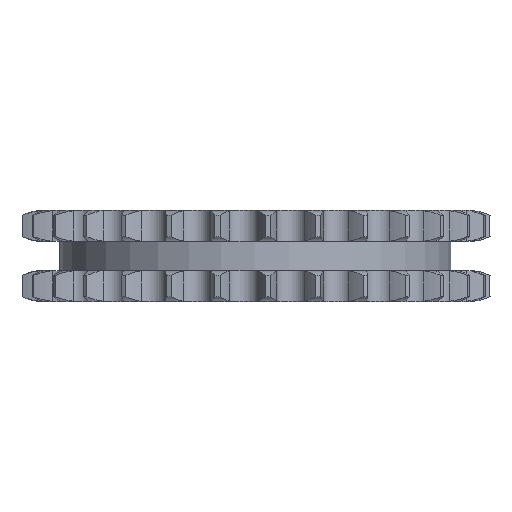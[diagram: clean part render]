
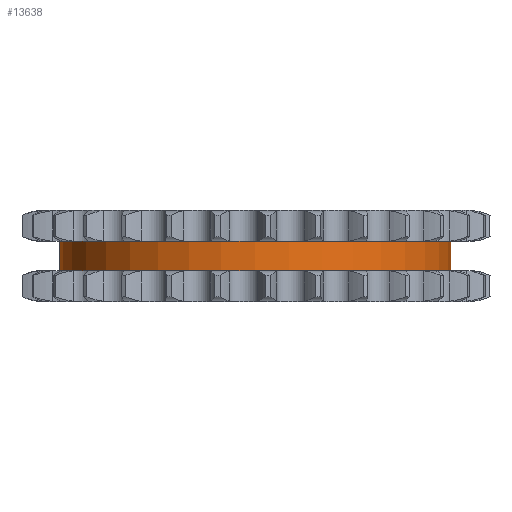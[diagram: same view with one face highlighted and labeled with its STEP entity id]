
A CAD part, left-side view. The second image highlights one B-rep face of the part: STEP entity #13638.
In plain terms, the highlighted cylindrical face has radius 102.463 mm (diameter 204.926 mm), a partial arc.
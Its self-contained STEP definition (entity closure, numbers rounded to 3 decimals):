
#1718=DIRECTION('',(0.,0.,-1.));
#1719=VECTOR('',#1718,15.3);
#1720=CARTESIAN_POINT('',(0.,102.463,7.65));
#1721=LINE('',#1720,#1719);
#1725=CARTESIAN_POINT('',(0.,0.,7.65));
#1726=DIRECTION('',(0.,0.,1.));
#1727=DIRECTION('',(0.,1.,0.));
#1728=AXIS2_PLACEMENT_3D('',#1725,#1726,#1727);
#1733=DIRECTION('',(0.,0.,-1.));
#1734=VECTOR('',#1733,15.3);
#1735=CARTESIAN_POINT('',(0.,-102.463,7.65));
#1736=LINE('',#1735,#1734);
#1740=CARTESIAN_POINT('',(0.,0.,-7.65));
#1741=DIRECTION('',(0.,0.,1.));
#1742=DIRECTION('',(0.,1.,0.));
#1743=AXIS2_PLACEMENT_3D('',#1740,#1741,#1742);
#10644=CARTESIAN_POINT('',(0.,102.463,7.65));
#10645=CARTESIAN_POINT('',(0.,102.463,-7.65));
#10646=VERTEX_POINT('',#10644);
#10647=VERTEX_POINT('',#10645);
#10648=CARTESIAN_POINT('',(0.,-102.463,7.65));
#10649=CARTESIAN_POINT('',(0.,-102.463,-7.65));
#10650=VERTEX_POINT('',#10648);
#10651=VERTEX_POINT('',#10649);
#13626=CARTESIAN_POINT('',(0.,0.,8.415));
#13627=DIRECTION('',(0.,0.,-1.));
#13628=DIRECTION('',(0.,-1.,0.));
#13629=AXIS2_PLACEMENT_3D('',#13626,#13627,#13628);
#13630=CYLINDRICAL_SURFACE('',#13629,102.463);
#13631=ORIENTED_EDGE('',*,*,#13616,.F.);
#13632=ORIENTED_EDGE('',*,*,#13606,.T.);
#13633=ORIENTED_EDGE('',*,*,#13620,.T.);
#13635=ORIENTED_EDGE('',*,*,#13634,.F.);
#13636=EDGE_LOOP('',(#13631,#13632,#13633,#13635));
#13637=FACE_OUTER_BOUND('',#13636,.F.);
#13638=ADVANCED_FACE('',(#13637),#13630,.T.);
#1729=CIRCLE('',#1728,102.463);
#1744=CIRCLE('',#1743,102.463);
#13606=EDGE_CURVE('',#10646,#10650,#1729,.T.);
#13616=EDGE_CURVE('',#10646,#10647,#1721,.T.);
#13620=EDGE_CURVE('',#10650,#10651,#1736,.T.);
#13634=EDGE_CURVE('',#10647,#10651,#1744,.T.);
